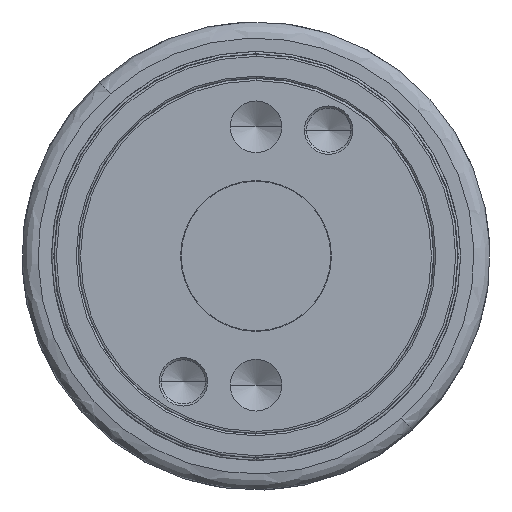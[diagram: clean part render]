
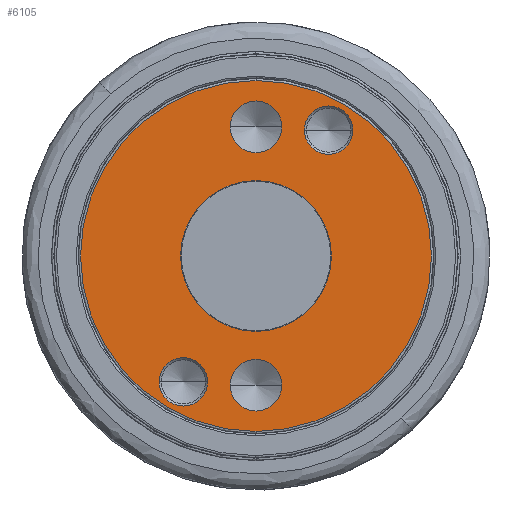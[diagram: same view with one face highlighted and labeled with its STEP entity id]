
A CAD part, front view. The second image highlights one B-rep face of the part: STEP entity #6105.
In plain terms, the highlighted free-form (B-spline) face has degree [1, 1] with [2, 2] control points.
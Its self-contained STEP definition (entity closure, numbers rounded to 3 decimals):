
#1095=CARTESIAN_POINT('',(0.,-65.,0.));
#1096=DIRECTION('',(0.,-1.,0.));
#1097=DIRECTION('',(0.,0.,1.));
#1098=AXIS2_PLACEMENT_3D('',#1095,#1096,#1097);
#1100=CARTESIAN_POINT('',(0.,-65.,0.));
#1101=DIRECTION('',(0.,-1.,0.));
#1102=DIRECTION('',(0.,0.,-1.));
#1103=AXIS2_PLACEMENT_3D('',#1100,#1101,#1102);
#1105=CARTESIAN_POINT('',(0.,-65.,12.));
#1106=DIRECTION('',(0.,-1.,0.));
#1107=DIRECTION('',(-1.,0.,0.));
#1108=AXIS2_PLACEMENT_3D('',#1105,#1106,#1107);
#1110=CARTESIAN_POINT('',(0.,-65.,12.));
#1111=DIRECTION('',(0.,-1.,0.));
#1112=DIRECTION('',(1.,0.,0.));
#1113=AXIS2_PLACEMENT_3D('',#1110,#1111,#1112);
#1115=CARTESIAN_POINT('',(0.,-65.,-12.));
#1116=DIRECTION('',(0.,-1.,0.));
#1117=DIRECTION('',(1.,0.,0.));
#1118=AXIS2_PLACEMENT_3D('',#1115,#1116,#1117);
#1120=CARTESIAN_POINT('',(0.,-65.,-12.));
#1121=DIRECTION('',(0.,-1.,0.));
#1122=DIRECTION('',(-1.,0.,0.));
#1123=AXIS2_PLACEMENT_3D('',#1120,#1121,#1122);
#1125=CARTESIAN_POINT('',(6.75,-65.,11.691));
#1126=DIRECTION('',(0.,1.,0.));
#1127=DIRECTION('',(1.,0.,0.));
#1128=AXIS2_PLACEMENT_3D('',#1125,#1126,#1127);
#1130=CARTESIAN_POINT('',(6.75,-65.,11.691));
#1131=DIRECTION('',(0.,1.,0.));
#1132=DIRECTION('',(-1.,0.,0.));
#1133=AXIS2_PLACEMENT_3D('',#1130,#1131,#1132);
#1135=CARTESIAN_POINT('',(-6.75,-65.,-11.691));
#1136=DIRECTION('',(0.,1.,0.));
#1137=DIRECTION('',(-1.,0.,0.));
#1138=AXIS2_PLACEMENT_3D('',#1135,#1136,#1137);
#1140=CARTESIAN_POINT('',(-6.75,-65.,-11.691));
#1141=DIRECTION('',(0.,1.,0.));
#1142=DIRECTION('',(1.,0.,0.));
#1143=AXIS2_PLACEMENT_3D('',#1140,#1141,#1142);
#1145=CARTESIAN_POINT('',(0.,-65.,0.));
#1146=DIRECTION('',(0.,1.,0.));
#1147=DIRECTION('',(-1.,0.,0.));
#1148=AXIS2_PLACEMENT_3D('',#1145,#1146,#1147);
#1150=CARTESIAN_POINT('',(0.,-65.,0.));
#1151=DIRECTION('',(0.,1.,0.));
#1152=DIRECTION('',(1.,0.,0.));
#1153=AXIS2_PLACEMENT_3D('',#1150,#1151,#1152);
#1788=CARTESIAN_POINT('',(-2.4,-65.,12.));
#1789=CARTESIAN_POINT('',(2.4,-65.,12.));
#1790=VERTEX_POINT('',#1788);
#1791=VERTEX_POINT('',#1789);
#1798=CARTESIAN_POINT('',(2.4,-65.,-12.));
#1799=CARTESIAN_POINT('',(-2.4,-65.,-12.));
#1800=VERTEX_POINT('',#1798);
#1801=VERTEX_POINT('',#1799);
#1834=CARTESIAN_POINT('',(-7.,-65.,0.));
#1835=CARTESIAN_POINT('',(7.,-65.,0.));
#1836=VERTEX_POINT('',#1834);
#1837=VERTEX_POINT('',#1835);
#1872=CARTESIAN_POINT('',(9.,-65.,11.691));
#1873=CARTESIAN_POINT('',(4.5,-65.,11.691));
#1874=VERTEX_POINT('',#1872);
#1875=VERTEX_POINT('',#1873);
#1886=CARTESIAN_POINT('',(-9.,-65.,-11.691));
#1887=CARTESIAN_POINT('',(-4.5,-65.,-11.691));
#1888=VERTEX_POINT('',#1886);
#1889=VERTEX_POINT('',#1887);
#1894=CARTESIAN_POINT('',(0.,-65.,16.3));
#1895=CARTESIAN_POINT('',(0.,-65.,-16.3));
#1896=VERTEX_POINT('',#1894);
#1897=VERTEX_POINT('',#1895);
#6066=CARTESIAN_POINT('',(16.952,-65.,16.952));
#6067=CARTESIAN_POINT('',(-16.952,-65.,16.952));
#6068=CARTESIAN_POINT('',(16.952,-65.,-16.952));
#6069=CARTESIAN_POINT('',(-16.952,-65.,-16.952));
#6070=B_SPLINE_SURFACE_WITH_KNOTS('',1,1,((#6066,#6067),(#6068,#6069)),
.UNSPECIFIED.,.F.,.F.,.F.,(2,2),(2,2),(-16.952,16.952),(-16.952,16.952),
.UNSPECIFIED.);
#6071=ORIENTED_EDGE('',*,*,#6060,.F.);
#6072=ORIENTED_EDGE('',*,*,#5918,.F.);
#6073=EDGE_LOOP('',(#6071,#6072));
#6074=FACE_OUTER_BOUND('',#6073,.F.);
#6076=ORIENTED_EDGE('',*,*,#6075,.T.);
#6078=ORIENTED_EDGE('',*,*,#6077,.T.);
#6079=EDGE_LOOP('',(#6076,#6078));
#6080=FACE_BOUND('',#6079,.F.);
#6082=ORIENTED_EDGE('',*,*,#6081,.T.);
#6084=ORIENTED_EDGE('',*,*,#6083,.T.);
#6085=EDGE_LOOP('',(#6082,#6084));
#6086=FACE_BOUND('',#6085,.F.);
#6088=ORIENTED_EDGE('',*,*,#6087,.F.);
#6090=ORIENTED_EDGE('',*,*,#6089,.F.);
#6091=EDGE_LOOP('',(#6088,#6090));
#6092=FACE_BOUND('',#6091,.F.);
#6094=ORIENTED_EDGE('',*,*,#6093,.F.);
#6096=ORIENTED_EDGE('',*,*,#6095,.F.);
#6097=EDGE_LOOP('',(#6094,#6096));
#6098=FACE_BOUND('',#6097,.F.);
#6100=ORIENTED_EDGE('',*,*,#6099,.F.);
#6102=ORIENTED_EDGE('',*,*,#6101,.F.);
#6103=EDGE_LOOP('',(#6100,#6102));
#6104=FACE_BOUND('',#6103,.F.);
#6105=ADVANCED_FACE('',(#6074,#6080,#6086,#6092,#6098,#6104),#6070,.F.);
#1099=CIRCLE('',#1098,16.3);
#1104=CIRCLE('',#1103,16.3);
#1109=CIRCLE('',#1108,2.4);
#1114=CIRCLE('',#1113,2.4);
#1119=CIRCLE('',#1118,2.4);
#1124=CIRCLE('',#1123,2.4);
#1129=CIRCLE('',#1128,2.25);
#1134=CIRCLE('',#1133,2.25);
#1139=CIRCLE('',#1138,2.25);
#1144=CIRCLE('',#1143,2.25);
#1149=CIRCLE('',#1148,7.);
#1154=CIRCLE('',#1153,7.);
#5918=EDGE_CURVE('',#1897,#1896,#1104,.T.);
#6060=EDGE_CURVE('',#1896,#1897,#1099,.T.);
#6075=EDGE_CURVE('',#1790,#1791,#1109,.T.);
#6077=EDGE_CURVE('',#1791,#1790,#1114,.T.);
#6081=EDGE_CURVE('',#1800,#1801,#1119,.T.);
#6083=EDGE_CURVE('',#1801,#1800,#1124,.T.);
#6087=EDGE_CURVE('',#1874,#1875,#1129,.T.);
#6089=EDGE_CURVE('',#1875,#1874,#1134,.T.);
#6093=EDGE_CURVE('',#1888,#1889,#1139,.T.);
#6095=EDGE_CURVE('',#1889,#1888,#1144,.T.);
#6099=EDGE_CURVE('',#1836,#1837,#1149,.T.);
#6101=EDGE_CURVE('',#1837,#1836,#1154,.T.);
